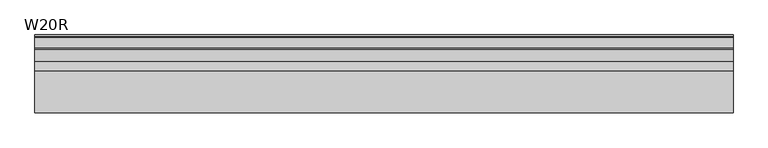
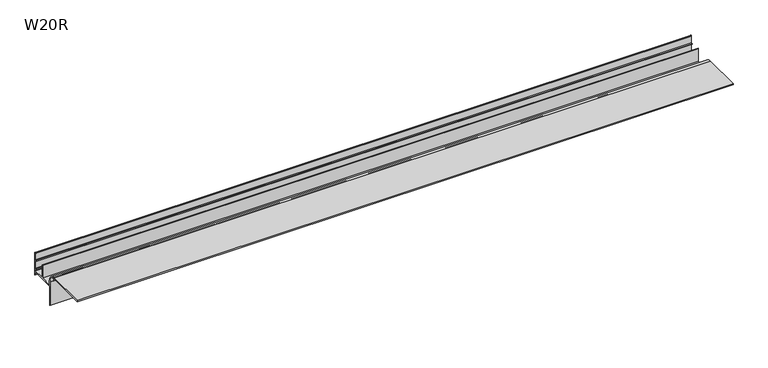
"""IFC4 building model written with IfcOpenShell, lengths in millimetres: proxy geometry, W20R Profil okapowy prosty : W20R."""

from ifc_helpers import new_model, si_unit, point, frame, frame_2d, origin, place, context, project, spatial, polyline, circle_curve, trimmed, segment, composite_curve, outline, extrude, source, transform, mapped, element, save


def w20r_7c1a13f7(model_context):
    return source(origin(), model_context, "Body", "SweptSolid", [
        extrude(outline(composite_curve([segment(polyline([(1.3, -2.7115431), (1.3, -7.4), (0.0, -7.4), (0.0, -2.4993104)]), True, "CONTINUOUS"), segment(trimmed(circle_curve(frame_2d((-1.7, -17.0)), 14.6), [point((0.0, -2.4993104))], [point((-1.7, -2.4))], True, "CARTESIAN"), True, "CONTINUOUS"), segment(polyline([(-1.7, -2.4), (-80.0, -2.4), (-80.0, 0.0), (-1.7, 0.0)]), True, "CONTINUOUS"), segment(trimmed(circle_curve(frame_2d((-1.7, -17.0)), 17.0), [point((-1.7, 0.0))], [point((15.3, -17.0))], False, "CARTESIAN"), True, "CONTINUOUS"), segment(polyline([(15.3, -17.0), (15.3, -25.0), (38.8, -25.0), (38.8, 1.4), (40.3, 1.4), (40.3, -25.0), (63.8, -25.0), (63.8, -21.0), (60.6, -21.0), (60.6, -19.5), (63.8, -19.5), (63.8, -3.07), (60.6, -3.07), (60.6, -1.57), (63.8, -1.57), (63.8, 11.7925824)]), True, "CONTINUOUS"), segment(trimmed(circle_curve(frame_2d((63.0, 11.7925824)), 0.8), [point((63.8, 11.7925824))], [point((63.0, 12.5925824))], True, "CARTESIAN"), True, "CONTINUOUS"), segment(polyline([(63.0, 12.5925824), (63.0, 14.0925824)]), True, "CONTINUOUS"), segment(trimmed(circle_curve(frame_2d((63.0, 11.7925824)), 2.3), [point((63.0, 14.0925824))], [point((65.3, 11.7925824))], False, "CARTESIAN"), True, "CONTINUOUS"), segment(polyline([(65.3, 11.7925824), (65.3, -34.6035534), (63.8, -33.1035534), (63.8, -27.4), (14.6, -27.4), (14.6, -67.5585923), (12.9, -66.5086509), (12.9, -17.0)]), True, "CONTINUOUS"), segment(trimmed(circle_curve(frame_2d((-1.7, -17.0)), 14.6), [point((12.9, -17.0))], [point((1.3, -2.7115431))], True, "CARTESIAN"), True, "CONTINUOUS")], self_intersect=False)), frame((0.0, 0.0, 0.0), z_axis=(1.0, 0.0, 0.0), x_axis=(0.0, 1.0, 0.0)), (0.0, 0.0, 1.0), 1299.689937),
    ])


if __name__ == "__main__":
    model = new_model("IFC4")
    model_context = context("Model", 3, world=origin())
    ifc_project = project(units=[si_unit("LENGTHUNIT", "METRE", prefix="MILLI")], contexts=[model_context])
    site = spatial("IfcSite", under=ifc_project)
    building = spatial("IfcBuilding", under=site)
    placement = place(None, origin())
    w20r_shape = w20r_7c1a13f7(model_context)
    element("IfcBuildingElementProxy", 1, Name="W20R Profil okapowy prosty : W20R", ObjectType="W20R Profil okapowy prosty : W20R", at=placement, inside=building, context=model_context, shape_type="MappedRepresentation", body=[
        mapped(w20r_shape, transform((0.0, 0.0, 0.0), x_axis=(1.0, 0.0, 0.0), y_axis=(0.0, 1.0, 0.0), z_axis=(0.0, 0.0, 1.0))),
    ])
    save(model, "model.ifc")
